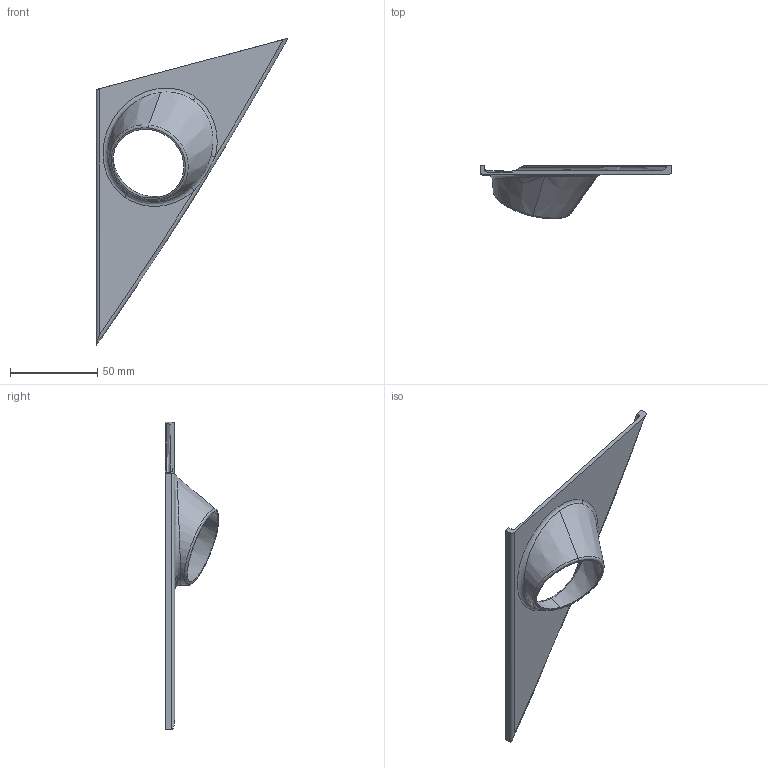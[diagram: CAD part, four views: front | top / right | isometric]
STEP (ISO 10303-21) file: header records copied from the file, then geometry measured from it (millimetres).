
FILE_DESCRIPTION (( 'STEP AP214' ), '1' );
FILE_NAME ('tweeter42mm.STEP', '2021-01-03T14:42:54', ( '' ), ( '' ), 'SwSTEP 2.0', 'SolidWorks 2018', '' );
FILE_SCHEMA (( 'AUTOMOTIVE_DESIGN' ));
Length unit declared in the file: millimetre
Products named in the file (1): tweeter42mm
Bounding box: 110.12 x 30.83 x 176.51 mm (x, y, z)
Volume: 25282.3 mm3; surface area: 20732.2 mm2
Topology: 1 solids, 1 shells, 34 faces, 92 edges, 59 vertices
Faces by surface type: plane 14, bspline 8, torus 4, cone 4, cylinder 4
Entity records: 1882 total; most frequent: CARTESIAN_POINT 1079, ORIENTED_EDGE 184, DIRECTION 137, EDGE_CURVE 92, VERTEX_POINT 59, AXIS2_PLACEMENT_3D 53, EDGE_LOOP 35, FACE_OUTER_BOUND 34
